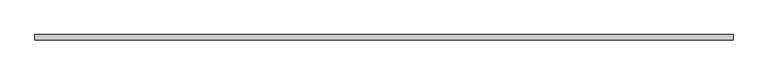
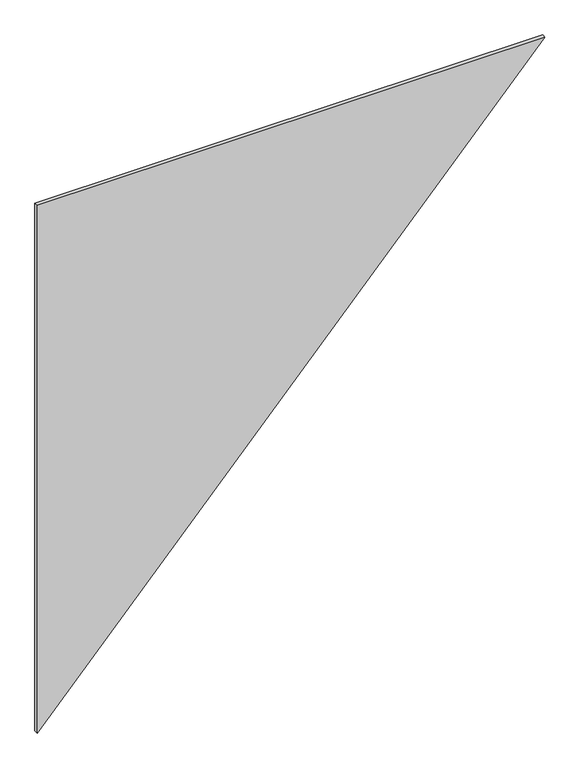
"""IFC4 building model written with IfcOpenShell, lengths in millimetres: plate geometry, 系統嵌板 : 玻璃 1.0cm."""

from ifc_helpers import new_model, si_unit, frame, origin, place, context, project, spatial, polyline, outline, extrude, source, transform, mapped, element, save


def plate_247c635d(model_context):
    return source(origin(), model_context, "Body", "SweptSolid", [
        extrude(outline(polyline([(0.0, -631.3057619), (1387.6600704, 631.3057619), (1387.6600704, -631.3057619), (0.0, -631.3057619)])), frame((0.0, -5.0, 0.0), z_axis=(0.0, 1.0, 0.0), x_axis=(0.0, 0.0, 1.0)), (0.0, 0.0, 1.0), 10.0),
    ])


if __name__ == "__main__":
    model = new_model("IFC4")
    model_context = context("Model", 3, world=origin())
    ifc_project = project(units=[si_unit("LENGTHUNIT", "METRE", prefix="MILLI")], contexts=[model_context])
    site = spatial("IfcSite", under=ifc_project)
    building = spatial("IfcBuilding", under=site)
    placement = place(None, origin())
    plate_shape = plate_247c635d(model_context)
    element("IfcPlate", 1, ObjectType="系統嵌板 : 玻璃 1.0cm", at=placement, inside=building, context=model_context, shape_type="MappedRepresentation", body=[
        mapped(plate_shape, transform((0.0, 0.0, 0.0), x_axis=(1.0, 0.0, 0.0), y_axis=(0.0, 1.0, 0.0), z_axis=(0.0, 0.0, 1.0))),
    ])
    save(model, "model.ifc")
